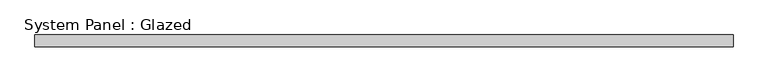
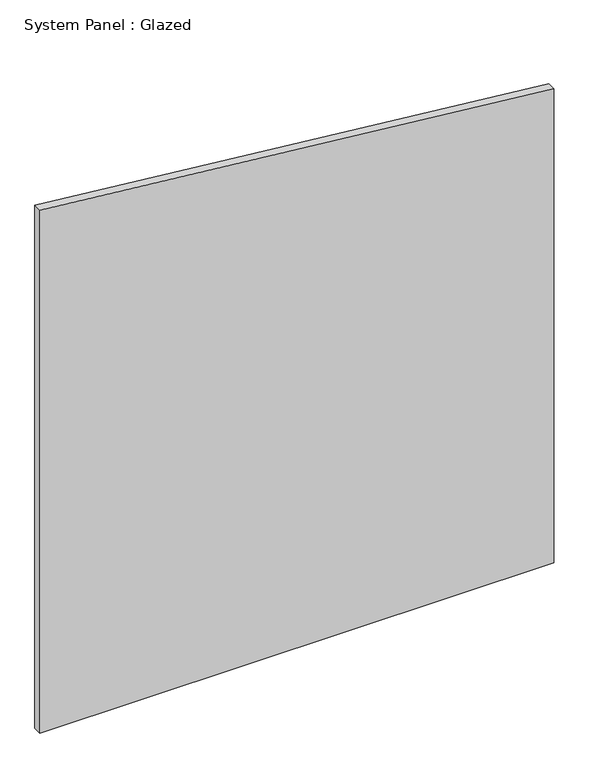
"""IFC4 building model written with IfcOpenShell, lengths in millimetres: plate geometry, System Panel : Glazed."""

import ifcopenshell
import ifcopenshell.guid

model = None  # the IFC model being written
_history = None  # IfcOwnerHistory: only IFC2X3 demands one
_inside = {}  # id of a spatial element -> (the spatial element, [elements in it])
_under = {}  # id of a project, library or spatial element -> (it, [spatial elements below it])
_declared = {}  # id of a project -> (the project, [libraries it declares])
_typed = {}  # id of a type object -> (the type object, [elements of that type])
_made_of = {}  # id of a material, layer set ... -> (it, [elements and type objects made of it])


def new_model(schema):
    """Start an empty IFC model of exactly this schema.

    Asked for "IFC4X3", IfcOpenShell would pick the latest addendum, in which some entities
    have other attributes; the version numbers below select the first issue.
    IFC2X3 requires an IfcOwnerHistory on every rooted entity: one is made here for all.
    """
    global model, _history
    if schema == "IFC4X3":
        model = ifcopenshell.file(schema_version=(4, 3, 0, 0))
    else:
        model = ifcopenshell.file(schema=schema)
    _inside.clear()
    _under.clear()
    _declared.clear()
    _typed.clear()
    _made_of.clear()
    _history = None
    if model.schema == "IFC2X3":
        org = make("IfcOrganization", Name="unknown")
        user = make(
            "IfcPersonAndOrganization",
            ThePerson=make("IfcPerson", FamilyName="unknown"),
            TheOrganization=org,
        )
        app = make(
            "IfcApplication",
            ApplicationDeveloper=org,
            Version="unknown",
            ApplicationFullName="unknown",
            ApplicationIdentifier="unknown",
        )
        _history = make(
            "IfcOwnerHistory",
            OwningUser=user,
            OwningApplication=app,
            ChangeAction="ADDED",
            CreationDate=0,
        )
    return model


def make(cls, **values):
    """One entity of the class cls with the attributes given. An attribute that is None is left unset."""
    return model.create_entity(
        cls, **{name: value for name, value in values.items() if value is not None}
    )


def rooted(cls, **values):
    """An entity with a GlobalId (a new one), such as an element, a storey or a relation."""
    return make(cls, GlobalId=ifcopenshell.guid.new(), OwnerHistory=_history, **values)


def si_unit(unit_type, name, prefix=None):
    """IfcSIUnit, for example si_unit("LENGTHUNIT", "METRE", prefix="MILLI")."""
    return make("IfcSIUnit", UnitType=unit_type, Prefix=prefix, Name=name)


def assignment(units):
    """IfcUnitAssignment: the units of a project."""
    return None if units is None else make("IfcUnitAssignment", Units=units)


def point(xyz):
    """IfcCartesianPoint."""
    return None if xyz is None else make("IfcCartesianPoint", Coordinates=xyz)


def direction(xyz):
    """IfcDirection."""
    return None if xyz is None else make("IfcDirection", DirectionRatios=xyz)


def frame(location, z_axis=None, x_axis=None):
    """IfcAxis2Placement3D, a coordinate frame: its origin and axes. An axis left out is left unset."""
    return make(
        "IfcAxis2Placement3D",
        Location=point(location),
        Axis=direction(z_axis),
        RefDirection=direction(x_axis),
    )


def origin():
    """The frame at (0, 0, 0) with its axes left unset."""
    return frame((0.0, 0.0, 0.0))


def place(relative_to, where):
    """IfcLocalPlacement: puts the frame where relative to a parent placement (None: the world)."""
    return make(
        "IfcLocalPlacement", PlacementRelTo=relative_to, RelativePlacement=where
    )


def context(
    kind, dimensions, precision=None, world=None, true_north=None, identifier=None
):
    """IfcGeometricRepresentationContext, for example the 3D "Model" context."""
    return make(
        "IfcGeometricRepresentationContext",
        ContextIdentifier=identifier,
        ContextType=kind,
        CoordinateSpaceDimension=dimensions,
        Precision=precision,
        WorldCoordinateSystem=world,
        TrueNorth=true_north,
    )


def project(units=None, contexts=None):
    """IfcProject with its units and contexts."""
    return rooted(
        "IfcProject",
        Name="project",
        RepresentationContexts=contexts,
        UnitsInContext=assignment(units),
    )


def spatial(cls, under=None, at=None, **own):
    """A site, building, storey or space (cls), placed at a placement, below another one or the project."""
    s = rooted(cls, ObjectPlacement=at, **own)
    if under is not None:
        _under.setdefault(under.id(), (under, []))[1].append(s)
    return s


def polyline(points):
    """IfcPolyline through the points."""
    return make("IfcPolyline", Points=[point(p) for p in points])


def outline(outer, holes=None, kind="AREA"):
    """IfcArbitraryClosedProfileDef: a profile drawn as a closed curve; with holes, ...WithVoids."""
    if holes is None:
        return make("IfcArbitraryClosedProfileDef", ProfileType=kind, OuterCurve=outer)
    return make(
        "IfcArbitraryProfileDefWithVoids",
        ProfileType=kind,
        OuterCurve=outer,
        InnerCurves=holes,
    )


def extrude(swept, where, along, depth):
    """IfcExtrudedAreaSolid: the profile swept, set in the frame where, extruded along a direction by depth."""
    return make(
        "IfcExtrudedAreaSolid",
        SweptArea=swept,
        Position=where,
        ExtrudedDirection=direction(along),
        Depth=depth,
    )


def shape(context_of_items, identifier, shape_type, items):
    """IfcShapeRepresentation: the items that make up one representation, for example the "Body"."""
    return make(
        "IfcShapeRepresentation",
        ContextOfItems=context_of_items,
        RepresentationIdentifier=identifier,
        RepresentationType=shape_type,
        Items=items,
    )


def source(mapping_origin, context_of_items, identifier, shape_type, items):
    """IfcRepresentationMap: a shape defined once, which mapped items show again and again."""
    return make(
        "IfcRepresentationMap",
        MappingOrigin=mapping_origin,
        MappedRepresentation=shape(context_of_items, identifier, shape_type, items),
    )


def transform(
    local_origin,
    x_axis=None,
    y_axis=None,
    z_axis=None,
    scale=None,
    scale2=None,
    scale3=None,
    uniform=True,
):
    """IfcCartesianTransformationOperator3D, or its non-uniform kind. x_axis, y_axis, z_axis: its Axis1, 2, 3."""
    if uniform:
        return make(
            "IfcCartesianTransformationOperator3D",
            Axis1=direction(x_axis),
            Axis2=direction(y_axis),
            LocalOrigin=point(local_origin),
            Scale=scale,
            Axis3=direction(z_axis),
        )
    return make(
        "IfcCartesianTransformationOperator3DnonUniform",
        Axis1=direction(x_axis),
        Axis2=direction(y_axis),
        LocalOrigin=point(local_origin),
        Scale=scale,
        Axis3=direction(z_axis),
        Scale2=scale2,
        Scale3=scale3,
    )


def mapped(mapping_source, mapping_target):
    """IfcMappedItem: shows the shape of a source again, moved by a transform."""
    return make(
        "IfcMappedItem", MappingSource=mapping_source, MappingTarget=mapping_target
    )


def made_of(thing, what):
    """Note that an element or type object is made of a material, layer set ...; save() writes the relation."""
    if what is not None:
        _made_of.setdefault(what.id(), (what, []))[1].append(thing)
    return thing


def element(
    cls,
    number,
    at=None,
    inside=None,
    cuts=None,
    type_object=None,
    material=None,
    context=None,
    identifier="Body",
    shape_type=None,
    held_by="IfcProductDefinitionShape",
    body=None,
    shapes=None,
    **own,
):
    """One element of the class cls, such as IfcWall. Its Tag is "e" and its number.

    at: its placement. inside: the storey or other place that contains it. cuts: it is an
    opening in that element (IfcRelVoidsElement). A single representation is given by context,
    identifier, shape_type and body (its items); several are given by shapes. held_by: the class
    of the entity that holds the representations. save() writes the other relations.
    """
    e = rooted(cls, Tag="e%d" % number, ObjectPlacement=at, **own)
    if body is not None:
        shapes = [shape(context, identifier, shape_type, body)]
    if shapes is not None:
        e.Representation = make(held_by, Representations=shapes)
    if inside is not None:
        _inside.setdefault(inside.id(), (inside, []))[1].append(e)
    if cuts is not None:
        rooted(
            "IfcRelVoidsElement", RelatingBuildingElement=cuts, RelatedOpeningElement=e
        )
    if type_object is not None:
        _typed.setdefault(type_object.id(), (type_object, []))[1].append(e)
    return made_of(e, material)


def aggregate(whole, parts):
    """IfcRelAggregates: a whole, such as a stair, and the parts it consists of."""
    return rooted("IfcRelAggregates", RelatingObject=whole, RelatedObjects=parts)


def save(model, path):
    """Write the relations noted so far, then the file.

    IfcRelAggregates (storeys below a building ...), IfcRelContainedInSpatialStructure (elements
    in a storey), IfcRelDefinesByType, IfcRelAssociatesMaterial and IfcRelDeclares: one each for
    every whole, place, type object, material and project.
    """
    for whole, parts in _under.values():
        aggregate(whole, parts)
    for where, things in _inside.values():
        rooted(
            "IfcRelContainedInSpatialStructure",
            RelatedElements=things,
            RelatingStructure=where,
        )
    for kind, things in _typed.values():
        rooted("IfcRelDefinesByType", RelatedObjects=things, RelatingType=kind)
    for what, things in _made_of.values():
        rooted("IfcRelAssociatesMaterial", RelatedObjects=things, RelatingMaterial=what)
    for by, libraries in _declared.values():
        rooted("IfcRelDeclares", RelatingContext=by, RelatedDefinitions=libraries)
    model.write(path)


def system_panel_glazed_774e724d(model_context):
    return source(origin(), model_context, "Body", "SweptSolid", [
        extrude(outline(polyline([(0.0, -735.8695652), (0.0, 735.8695652), (1435.6383789, 735.8695652), (1583.6213577, -735.8695652), (0.0, -735.8695652)])), frame((0.0, 24.5, 0.0), z_axis=(0.0, 1.0, 0.0), x_axis=(0.0, 0.0, 1.0)), (0.0, 0.0, 1.0), 25.0),
    ])


if __name__ == "__main__":
    model = new_model("IFC4")
    model_context = context("Model", 3, world=origin())
    ifc_project = project(units=[si_unit("LENGTHUNIT", "METRE", prefix="MILLI")], contexts=[model_context])
    site = spatial("IfcSite", under=ifc_project)
    building = spatial("IfcBuilding", under=site)
    placement = place(None, origin())
    system_panel_glazed_shape = system_panel_glazed_774e724d(model_context)
    element("IfcPlate", 1, ObjectType="System Panel : Glazed", at=placement, inside=building, context=model_context, shape_type="MappedRepresentation", body=[
        mapped(system_panel_glazed_shape, transform((0.0, 0.0, 0.0), x_axis=(1.0, 0.0, 0.0), y_axis=(0.0, 1.0, 0.0), z_axis=(0.0, 0.0, 1.0))),
    ])
    save(model, "model.ifc")
